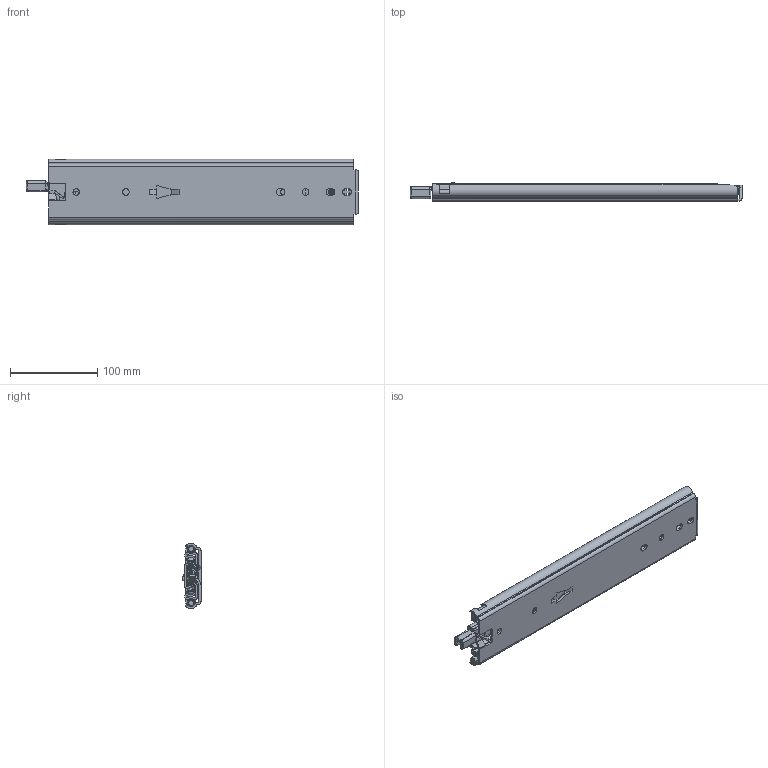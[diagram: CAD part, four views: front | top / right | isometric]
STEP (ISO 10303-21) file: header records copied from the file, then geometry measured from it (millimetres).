
FILE_DESCRIPTION((''),'2;1');
FILE_NAME('DG-76-3S-14YOU_ASM','2023-05-09T',('jishu015'),(''),'PRO/ENGINEER BY PARAMETRIC TECHNOLOGY CORPORATION, 2010280','PRO/ENGINEER BY PARAMETRIC TECHNOLOGY CORPORATION, 2010280','');
FILE_SCHEMA(('CONFIG_CONTROL_DESIGN'));
Length unit declared in the file: millimetre
Products named in the file (29): KP-76-04WAIKE-1816___; 1076-WAIKEZIDANJIAO16___; WAIK16____ASM; 1076XIAOZHUTIAO-22516___; 16___; 1076XIAOZHUTIAO-17516____ASM; KP-76-04ZHONGGUI1816___; 76CHANGGUIZHONGGUIJIAO16___; 3X6WODIN16___; ZHONGGUIBAIKOU16___; PJ-76-30__; PJ-76-03__; 76-XIAOZHUJIA-11__; GANGZHU-XIAO__; ZHUJIA-XIAO___ASM; ZHONGGUI6____ASM; KP-76-04NEIGUI1816___; PJ-76-31__; DAOGPIAN16___; 1053-3SBANJ01__; JIAO-11__; 76XINSUOKOU__; PJ-338__; PJ-356__; PJ-357__; PJ-336__; M4X4__; NEIGUI16____ASM; DG-76-3S-14YOU_ASM
Assembly tree (43 placements, depth 4):
  DG-76-3S-14YOU_ASM
    WAIK16____ASM
      KP-76-04WAIKE-1816___
      1076-WAIKEZIDANJIAO16___  x2
    1076XIAOZHUTIAO-17516____ASM  x2
      1076XIAOZHUTIAO-22516___
      16___
    ZHONGGUI6____ASM
      KP-76-04ZHONGGUI1816___
      76CHANGGUIZHONGGUIJIAO16___
      3X6WODIN16___
      ZHONGGUIBAIKOU16___
      PJ-76-30__
      PJ-76-03__
      ZHUJIA-XIAO___ASM
        76-XIAOZHUJIA-11__
        GANGZHU-XIAO__  x10
    NEIGUI16____ASM
      KP-76-04NEIGUI1816___
      PJ-76-31__
      DAOGPIAN16___
      1053-3SBANJ01__
      JIAO-11__
      76XINSUOKOU__
      PJ-338__
      PJ-356__
      PJ-357__
      PJ-336__
      M4X4__
Bounding box: 381.52 x 20.7 x 75.3 mm (x, y, z)
Volume: 230498.3 mm3; surface area: 222193.6 mm2
Topology: 44 solids, 44 shells, 1530 faces, 4482 edges, 2891 vertices
Faces by surface type: plane 715, cylinder 569, bspline 92, torus 56, sphere 47, cone 28, extrusion 23
Entity records: 55280 total; most frequent: CARTESIAN_POINT 17310, ORIENTED_EDGE 8268, DIRECTION 7465, EDGE_CURVE 4134, VERTEX_POINT 2707, AXIS2_PLACEMENT_3D 2607, VECTOR 2251, LINE 2228
